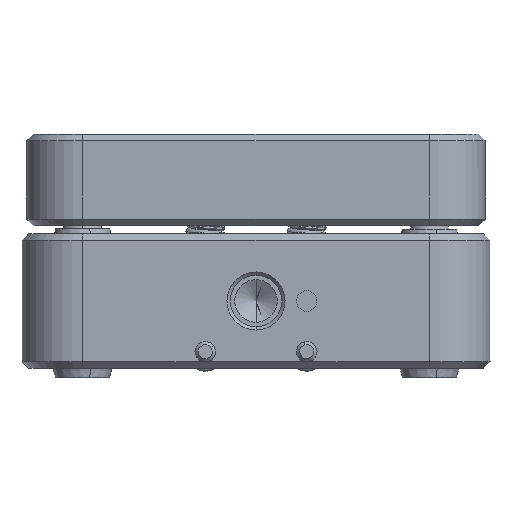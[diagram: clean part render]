
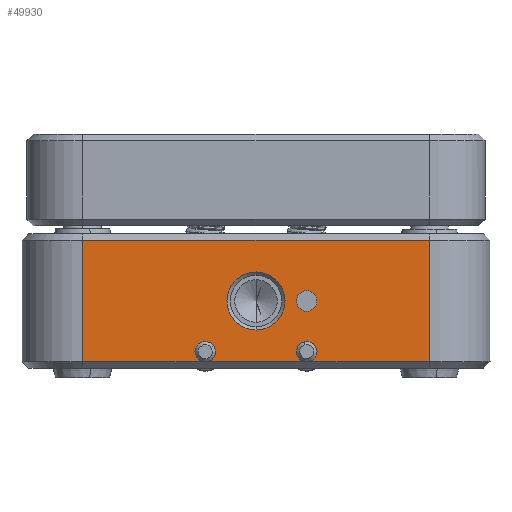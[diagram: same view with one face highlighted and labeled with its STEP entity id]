
A CAD part, front view. The second image highlights one B-rep face of the part: STEP entity #49930.
In plain terms, the highlighted planar face has unit normal (0, -1, 0).
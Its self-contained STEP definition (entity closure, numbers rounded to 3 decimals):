
#670 = CARTESIAN_POINT ( 'NONE',  ( 0., -4.699, 9.906 ) ) ;
#1007 = DIRECTION ( 'NONE',  ( 0., 0., -1. ) ) ;
#1008 = VECTOR ( 'NONE', #1007, 1000. ) ;
#1009 = CARTESIAN_POINT ( 'NONE',  ( 0., -4.699, 10.414 ) ) ;
#1010 = LINE ( 'NONE', #1009, #1008 ) ;
#1022 = DIRECTION ( 'NONE',  ( -1., 0., 0. ) ) ;
#1023 = DIRECTION ( 'NONE',  ( 0., -1., 0. ) ) ;
#1024 = CARTESIAN_POINT ( 'NONE',  ( 17.399, -4.699, 1.27 ) ) ;
#1025 = AXIS2_PLACEMENT_3D ( 'NONE', #1024, #1023, #1022 ) ;
#1026 = CIRCLE ( 'NONE', #1025, 0.8 ) ;
#1059 = CARTESIAN_POINT ( 'NONE',  ( 9.769, -4.699, 0.508 ) ) ;
#1060 = DIRECTION ( 'NONE',  ( -1., 0., 0. ) ) ;
#1061 = DIRECTION ( 'NONE',  ( 0., -1., 0. ) ) ;
#1062 = CARTESIAN_POINT ( 'NONE',  ( 9.525, -4.699, 1.27 ) ) ;
#1063 = AXIS2_PLACEMENT_3D ( 'NONE', #1062, #1061, #1060 ) ;
#1064 = CIRCLE ( 'NONE', #1063, 0.8 ) ;
#1065 = DIRECTION ( 'NONE',  ( 1., 0., 0. ) ) ;
#1066 = VECTOR ( 'NONE', #1065, 1000. ) ;
#1067 = CARTESIAN_POINT ( 'NONE',  ( 26.924, -4.699, 0.508 ) ) ;
#1072 = LINE ( 'NONE', #1067, #1066 ) ;
#1104 = DIRECTION ( 'NONE',  ( -1., 0., 0. ) ) ;
#1105 = DIRECTION ( 'NONE',  ( 0., -1., 0. ) ) ;
#1106 = CARTESIAN_POINT ( 'NONE',  ( 17.399, -4.699, 1.27 ) ) ;
#1107 = AXIS2_PLACEMENT_3D ( 'NONE', #1106, #1105, #1104 ) ;
#1108 = CIRCLE ( 'NONE', #1107, 0.8 ) ;
#1114 = DIRECTION ( 'NONE',  ( 0., 0., -1. ) ) ;
#1115 = VECTOR ( 'NONE', #1114, 1000. ) ;
#1116 = CARTESIAN_POINT ( 'NONE',  ( 26.924, -4.699, 10.414 ) ) ;
#1117 = LINE ( 'NONE', #1116, #1115 ) ;
#1118 = DIRECTION ( 'NONE',  ( 1., 0., 0. ) ) ;
#1119 = VECTOR ( 'NONE', #1118, 1000. ) ;
#1120 = CARTESIAN_POINT ( 'NONE',  ( 26.924, -4.699, 0.508 ) ) ;
#1121 = LINE ( 'NONE', #1120, #1119 ) ;
#1122 = DIRECTION ( 'NONE',  ( -1., 0., 0. ) ) ;
#1123 = DIRECTION ( 'NONE',  ( 0., -1., 0. ) ) ;
#1124 = CARTESIAN_POINT ( 'NONE',  ( 9.525, -4.699, 1.27 ) ) ;
#1125 = AXIS2_PLACEMENT_3D ( 'NONE', #1124, #1123, #1122 ) ;
#1126 = CIRCLE ( 'NONE', #1125, 0.8 ) ;
#1127 = CARTESIAN_POINT ( 'NONE',  ( 9.281, -4.699, 0.508 ) ) ;
#1170 = CARTESIAN_POINT ( 'NONE',  ( 17.643, -4.699, 0.508 ) ) ;
#1368 = DIRECTION ( 'NONE',  ( 1., 0., 0. ) ) ;
#1369 = VECTOR ( 'NONE', #1368, 1000. ) ;
#1370 = CARTESIAN_POINT ( 'NONE',  ( 26.924, -4.699, 0.508 ) ) ;
#1371 = LINE ( 'NONE', #1370, #1369 ) ;
#1571 = CARTESIAN_POINT ( 'NONE',  ( 26.924, -4.699, 9.906 ) ) ;
#1572 = DIRECTION ( 'NONE',  ( -1., 0., 0. ) ) ;
#1573 = DIRECTION ( 'NONE',  ( 0., 1., 0. ) ) ;
#1574 = CARTESIAN_POINT ( 'NONE',  ( 13.462, -4.699, 5.207 ) ) ;
#1575 = AXIS2_PLACEMENT_3D ( 'NONE', #1574, #1573, #1572 ) ;
#1576 = CIRCLE ( 'NONE', #1575, 2.254 ) ;
#1577 = CARTESIAN_POINT ( 'NONE',  ( 0., -4.699, 0.508 ) ) ;
#1625 = CARTESIAN_POINT ( 'NONE',  ( 17.155, -4.699, 0.508 ) ) ;
#1626 = DIRECTION ( 'NONE',  ( 0., 0., 1. ) ) ;
#1627 = DIRECTION ( 'NONE',  ( 0., -1., 0. ) ) ;
#1628 = CARTESIAN_POINT ( 'NONE',  ( 17.399, -4.699, 5.207 ) ) ;
#1629 = AXIS2_PLACEMENT_3D ( 'NONE', #1628, #1627, #1626 ) ;
#1630 = CIRCLE ( 'NONE', #1629, 0.794 ) ;
#1633 = DIRECTION ( 'NONE',  ( -1., 0., 0. ) ) ;
#1634 = VECTOR ( 'NONE', #1633, 1000. ) ;
#1635 = CARTESIAN_POINT ( 'NONE',  ( 0., -4.699, 9.906 ) ) ;
#1640 = LINE ( 'NONE', #1635, #1634 ) ;
#1758 = FACE_OUTER_BOUND ( 'NONE', #49821, .T. ) ;
#1759 = FACE_BOUND ( 'NONE', #49733, .T. ) ;
#1760 = FACE_BOUND ( 'NONE', #49730, .T. ) ;
#1788 = DIRECTION ( 'NONE',  ( -1., 0., 0. ) ) ;
#1789 = DIRECTION ( 'NONE',  ( 0., -1., 0. ) ) ;
#1790 = CARTESIAN_POINT ( 'NONE',  ( 0., -4.699, 10.414 ) ) ;
#1791 = AXIS2_PLACEMENT_3D ( 'NONE', #1790, #1789, #1788 ) ;
#1792 = PLANE ( 'NONE',  #1791 ) ;
#13645 = DIRECTION ( 'NONE',  ( -1., 0., 0. ) ) ;
#13646 = DIRECTION ( 'NONE',  ( 0., 1., 0. ) ) ;
#13647 = CARTESIAN_POINT ( 'NONE',  ( 13.462, -4.699, 5.207 ) ) ;
#13648 = AXIS2_PLACEMENT_3D ( 'NONE', #13647, #13646, #13645 ) ;
#13649 = CIRCLE ( 'NONE', #13648, 2.254 ) ;
#13715 = CARTESIAN_POINT ( 'NONE',  ( 13.462, -4.699, 7.461 ) ) ;
#14246 = CARTESIAN_POINT ( 'NONE',  ( 13.462, -4.699, 2.953 ) ) ;
#31965 = CARTESIAN_POINT ( 'NONE',  ( 26.924, -4.699, 0.508 ) ) ;
#36094 = CARTESIAN_POINT ( 'NONE',  ( 18.199, -4.699, 1.27 ) ) ;
#36122 = CARTESIAN_POINT ( 'NONE',  ( 10.325, -4.699, 1.27 ) ) ;
#36152 = CARTESIAN_POINT ( 'NONE',  ( 8.725, -4.699, 1.27 ) ) ;
#36243 = CARTESIAN_POINT ( 'NONE',  ( 16.599, -4.699, 1.27 ) ) ;
#36245 = DIRECTION ( 'NONE',  ( -1., 0., 0. ) ) ;
#36247 = DIRECTION ( 'NONE',  ( 0., -1., 0. ) ) ;
#36249 = CARTESIAN_POINT ( 'NONE',  ( 17.399, -4.699, 1.27 ) ) ;
#36251 = AXIS2_PLACEMENT_3D ( 'NONE', #36249, #36247, #36245 ) ;
#36253 = CIRCLE ( 'NONE', #36251, 0.8 ) ;
#36698 = DIRECTION ( 'NONE',  ( 0., 0., 1. ) ) ;
#36699 = DIRECTION ( 'NONE',  ( 0., -1., 0. ) ) ;
#36700 = AXIS2_PLACEMENT_3D ( 'NONE', #36716, #36699, #36698 ) ;
#36701 = CIRCLE ( 'NONE', #36700, 0.794 ) ;
#36716 = CARTESIAN_POINT ( 'NONE',  ( 17.399, -4.699, 5.207 ) ) ;
#36808 = DIRECTION ( 'NONE',  ( -1., 0., 0. ) ) ;
#36810 = DIRECTION ( 'NONE',  ( 0., -1., 0. ) ) ;
#36811 = CARTESIAN_POINT ( 'NONE',  ( 9.525, -4.699, 1.27 ) ) ;
#36812 = AXIS2_PLACEMENT_3D ( 'NONE', #36811, #36810, #36808 ) ;
#36813 = CIRCLE ( 'NONE', #36812, 0.8 ) ;
#36872 = CARTESIAN_POINT ( 'NONE',  ( 17.399, -4.699, 4.413 ) ) ;
#40760 = VERTEX_POINT ( 'NONE', #670 ) ;
#48136 = CARTESIAN_POINT ( 'NONE',  ( 17.399, -4.699, 6.001 ) ) ;
#49176 = EDGE_CURVE ( 'NONE', #49357, #61437, #1026, .T. ) ;
#49177 = ORIENTED_EDGE ( 'NONE', *, *, #49628, .T. ) ;
#49201 = EDGE_CURVE ( 'NONE', #40760, #49816, #1010, .T. ) ;
#49207 = EDGE_CURVE ( 'NONE', #61448, #49298, #1064, .T. ) ;
#49211 = ORIENTED_EDGE ( 'NONE', *, *, #61550, .F. ) ;
#49213 = ORIENTED_EDGE ( 'NONE', *, *, #49304, .F. ) ;
#49216 = VERTEX_POINT ( 'NONE', #1059 ) ;
#49219 = ORIENTED_EDGE ( 'NONE', *, *, #59748, .T. ) ;
#49227 = ORIENTED_EDGE ( 'NONE', *, *, #49207, .F. ) ;
#49280 = ORIENTED_EDGE ( 'NONE', *, *, #49827, .F. ) ;
#49294 = ORIENTED_EDGE ( 'NONE', *, *, #49201, .T. ) ;
#49295 = ORIENTED_EDGE ( 'NONE', *, *, #49296, .T. ) ;
#49296 = EDGE_CURVE ( 'NONE', #49816, #49298, #1072, .T. ) ;
#49298 = VERTEX_POINT ( 'NONE', #1127 ) ;
#49304 = EDGE_CURVE ( 'NONE', #49216, #61443, #1126, .T. ) ;
#49307 = ORIENTED_EDGE ( 'NONE', *, *, #49310, .T. ) ;
#49310 = EDGE_CURVE ( 'NONE', #49216, #49832, #1121, .T. ) ;
#49311 = ORIENTED_EDGE ( 'NONE', *, *, #49312, .F. ) ;
#49312 = EDGE_CURVE ( 'NONE', #49825, #60725, #1117, .T. ) ;
#49323 = ORIENTED_EDGE ( 'NONE', *, *, #49327, .F. ) ;
#49327 = EDGE_CURVE ( 'NONE', #61460, #49832, #1108, .T. ) ;
#49329 = ORIENTED_EDGE ( 'NONE', *, *, #61459, .F. ) ;
#49357 = VERTEX_POINT ( 'NONE', #1170 ) ;
#49593 = ORIENTED_EDGE ( 'NONE', *, *, #49176, .F. ) ;
#49628 = EDGE_CURVE ( 'NONE', #49357, #60725, #1371, .T. ) ;
#49730 = EDGE_LOOP ( 'NONE', ( #49280, #49829 ) ) ;
#49733 = EDGE_LOOP ( 'NONE', ( #49219, #49738 ) ) ;
#49738 = ORIENTED_EDGE ( 'NONE', *, *, #49824, .T. ) ;
#49816 = VERTEX_POINT ( 'NONE', #1577 ) ;
#49821 = EDGE_LOOP ( 'NONE', ( #49311, #49847, #49294, #49295, #49227, #49211, #49213, #49307, #49323, #49329, #49593, #49177 ) ) ;
#49824 = EDGE_CURVE ( 'NONE', #59833, #59762, #1576, .T. ) ;
#49825 = VERTEX_POINT ( 'NONE', #1571 ) ;
#49827 = EDGE_CURVE ( 'NONE', #62510, #61559, #1630, .T. ) ;
#49829 = ORIENTED_EDGE ( 'NONE', *, *, #61529, .F. ) ;
#49832 = VERTEX_POINT ( 'NONE', #1625 ) ;
#49847 = ORIENTED_EDGE ( 'NONE', *, *, #49849, .T. ) ;
#49849 = EDGE_CURVE ( 'NONE', #49825, #40760, #1640, .T. ) ;
#49930 = ADVANCED_FACE ( 'NONE', ( #1760, #1759, #1758 ), #1792, .T. ) ;
#59748 = EDGE_CURVE ( 'NONE', #59762, #59833, #13649, .T. ) ;
#59762 = VERTEX_POINT ( 'NONE', #13715 ) ;
#59833 = VERTEX_POINT ( 'NONE', #14246 ) ;
#60725 = VERTEX_POINT ( 'NONE', #31965 ) ;
#61437 = VERTEX_POINT ( 'NONE', #36094 ) ;
#61443 = VERTEX_POINT ( 'NONE', #36122 ) ;
#61448 = VERTEX_POINT ( 'NONE', #36152 ) ;
#61459 = EDGE_CURVE ( 'NONE', #61437, #61460, #36253, .T. ) ;
#61460 = VERTEX_POINT ( 'NONE', #36243 ) ;
#61529 = EDGE_CURVE ( 'NONE', #61559, #62510, #36701, .T. ) ;
#61550 = EDGE_CURVE ( 'NONE', #61443, #61448, #36813, .T. ) ;
#61559 = VERTEX_POINT ( 'NONE', #36872 ) ;
#62510 = VERTEX_POINT ( 'NONE', #48136 ) ;
